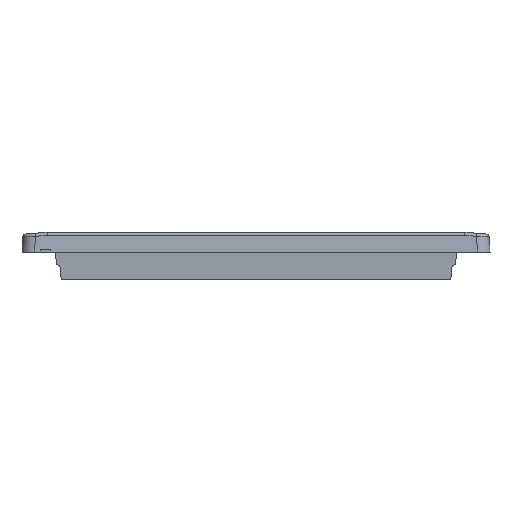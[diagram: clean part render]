
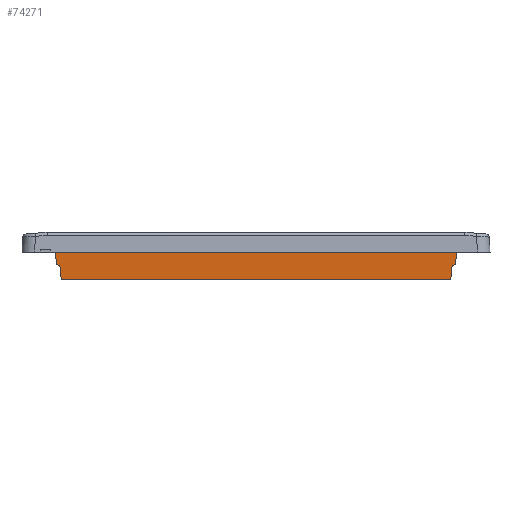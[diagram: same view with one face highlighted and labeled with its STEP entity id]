
A CAD part, front view. The second image highlights one B-rep face of the part: STEP entity #74271.
In plain terms, the highlighted free-form (B-spline) face has degree [1, 1] with [2, 2] control points.
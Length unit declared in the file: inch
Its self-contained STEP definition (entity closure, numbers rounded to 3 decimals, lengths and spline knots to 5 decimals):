
#72235=CARTESIAN_POINT('V1561',(4.0285,
   -14.89582,0.46686));
#72236=VERTEX_POINT('V1561',#72235);
#72242=CARTESIAN_POINT('V174',(4.04439,-14.91175,
   0.77));
#72243=VERTEX_POINT('V174',#72242);
#72244=CARTESIAN_POINT('E1599',(4.04439,
   -14.91175,0.77));
#72245=CARTESIAN_POINT('E1599',(4.0285,
   -14.89586,0.46686));
#72246=B_SPLINE_CURVE_WITH_KNOTS('E1599',1,(#72244,#72245),
   .POLYLINE_FORM.,.F.,.U.,(2,2),(0.35849,
   0.59068),.UNSPECIFIED.);
#72247=EDGE_CURVE('E1599',#72243,#72236,#72246,.T.);
#72345=CARTESIAN_POINT('V1568',(-7.05924,
   -14.89582,0.46686));
#72346=VERTEX_POINT('V1568',#72345);
#72353=CARTESIAN_POINT('V173',(-7.07513,
   -14.91175,0.77));
#72354=VERTEX_POINT('V173',#72353);
#72360=CARTESIAN_POINT('E1598',(-7.05924,
   -14.89586,0.46686));
#72361=CARTESIAN_POINT('E1598',(-7.07513,
   -14.91175,0.77));
#72362=B_SPLINE_CURVE_WITH_KNOTS('E1598',1,(#72360,#72361),
   .POLYLINE_FORM.,.F.,.U.,(2,2),(0.35849,
   0.59068),.UNSPECIFIED.);
#72363=EDGE_CURVE('E1598',#72346,#72354,#72362,.T.);
#72386=CARTESIAN_POINT('V1567',(-6.99933,
   -14.89288,0.41));
#72387=VERTEX_POINT('V1567',#72386);
#72388=CARTESIAN_POINT('E1597',(-6.99933,
   -14.89288,0.41));
#72389=CARTESIAN_POINT('E1597',(-7.01095,
   -14.89288,0.41));
#72390=CARTESIAN_POINT('E1597',(-7.04054,
   -14.89366,0.41877));
#72391=CARTESIAN_POINT('E1597',(-7.05872,
   -14.89476,0.44749));
#72392=CARTESIAN_POINT('E1597',(-7.05922,
   -14.89584,0.46686));
#72393=B_SPLINE_CURVE_WITH_KNOTS('E1597',3,(#72388,#72389,#72390,
   #72391,#72392),.UNSPECIFIED.,.F.,.U.,(4,1,4),(0.0,
   0.00085,0.00231),.UNSPECIFIED.);
#72394=EDGE_CURVE('E1597',#72387,#72346,#72393,.T.);
#72412=CARTESIAN_POINT('V1566',(-6.95613,
   -14.89288,0.41));
#72413=VERTEX_POINT('V1566',#72412);
#72414=CARTESIAN_POINT('E1596',(-6.99933,
   -14.89288,0.41));
#72415=CARTESIAN_POINT('E1596',(-6.95613,
   -14.89288,0.41));
#72416=B_SPLINE_CURVE_WITH_KNOTS('E1596',1,(#72414,#72415),
   .POLYLINE_FORM.,.F.,.U.,(2,2),(0.0,0.4314),
   .UNSPECIFIED.);
#72417=EDGE_CURVE('E1596',#72387,#72413,#72416,.T.);
#72433=CARTESIAN_POINT('V1565',(-6.92026,
   -14.87139,0.));
#72434=VERTEX_POINT('V1565',#72433);
#72435=CARTESIAN_POINT('E1595',(-6.95613,
   -14.89288,0.41));
#72436=CARTESIAN_POINT('E1595',(-6.92026,
   -14.87139,0.));
#72437=QUASI_UNIFORM_CURVE('E1595',1,(#72435,#72436),.POLYLINE_FORM.,
   .F.,.U.);
#72438=EDGE_CURVE('E1595',#72413,#72434,#72437,.T.);
#72455=CARTESIAN_POINT('V1564',(3.88951,
   -14.87139,0.));
#72456=VERTEX_POINT('V1564',#72455);
#72464=CARTESIAN_POINT('E1594',(3.88951,
   -14.87139,0.0));
#72465=CARTESIAN_POINT('E1594',(-6.92026,
   -14.87139,0.0));
#72466=QUASI_UNIFORM_CURVE('E1594',1,(#72464,#72465),.POLYLINE_FORM.,
   .F.,.U.);
#72467=EDGE_CURVE('E1594',#72456,#72434,#72466,.T.);
#74179=CARTESIAN_POINT('V1563',(3.92538,
   -14.89288,0.41));
#74180=VERTEX_POINT('V1563',#74179);
#74181=CARTESIAN_POINT('E1593',(3.92538,
   -14.89288,0.41));
#74182=CARTESIAN_POINT('E1593',(3.88951,
   -14.87139,0.));
#74183=QUASI_UNIFORM_CURVE('E1593',1,(#74181,#74182),.POLYLINE_FORM.,
   .F.,.U.);
#74184=EDGE_CURVE('E1593',#74180,#72456,#74183,.T.);
#74201=CARTESIAN_POINT('V1562',(3.96858,
   -14.89288,0.41));
#74202=VERTEX_POINT('V1562',#74201);
#74210=CARTESIAN_POINT('E1592',(3.96858,
   -14.89288,0.41));
#74211=CARTESIAN_POINT('E1592',(3.92538,
   -14.89288,0.41));
#74212=B_SPLINE_CURVE_WITH_KNOTS('E1592',1,(#74210,#74211),
   .POLYLINE_FORM.,.F.,.U.,(2,2),(0.0,0.4314),
   .UNSPECIFIED.);
#74213=EDGE_CURVE('E1592',#74202,#74180,#74212,.T.);
#74236=CARTESIAN_POINT('E1591',(4.02848,
   -14.89584,0.46686));
#74237=CARTESIAN_POINT('E1591',(4.02798,
   -14.89476,0.44749));
#74238=CARTESIAN_POINT('E1591',(4.00979,
   -14.89366,0.41877));
#74239=CARTESIAN_POINT('E1591',(3.98021,
   -14.89288,0.41));
#74240=CARTESIAN_POINT('E1591',(3.96858,
   -14.89288,0.41));
#74241=B_SPLINE_CURVE_WITH_KNOTS('E1591',3,(#74236,#74237,#74238,
   #74239,#74240),.UNSPECIFIED.,.F.,.U.,(4,1,4),(0.0,
   0.00146,0.00231),.UNSPECIFIED.);
#74242=EDGE_CURVE('E1591',#72236,#74202,#74241,.T.);
#74250=CARTESIAN_POINT('F44',(-7.08431,-14.91726,
   0.87511));
#74251=CARTESIAN_POINT('F44',(4.05357,-14.91726,
   0.87511));
#74252=CARTESIAN_POINT('F44',(-7.08431,-14.87119,
   -0.00393));
#74253=CARTESIAN_POINT('F44',(4.05357,-14.87119,
   -0.00393));
#74254=B_SPLINE_SURFACE_WITH_KNOTS('F44',1,1,((#74250,#74252),(
   #74251,#74253)),.PLANE_SURF.,.F.,.F.,.U.,(2,2),(2,2),(0.0,
   12.65309),(0.0,1.0),.UNSPECIFIED.);
#74255=ORIENTED_EDGE('E1591',*,*,#74242,.T.);
#74256=ORIENTED_EDGE('F826',*,*,#74213,.T.);
#74257=ORIENTED_EDGE('E1593',*,*,#74184,.T.);
#74258=ORIENTED_EDGE('F1620',*,*,#72467,.T.);
#74259=ORIENTED_EDGE('E1595',*,*,#72438,.F.);
#74260=ORIENTED_EDGE('E1596',*,*,#72417,.F.);
#74261=ORIENTED_EDGE('E1597',*,*,#72394,.T.);
#74262=ORIENTED_EDGE('F1613',*,*,#72363,.T.);
#74263=CARTESIAN_POINT('E201',(-7.07513,
   -14.91175,0.77));
#74264=CARTESIAN_POINT('E201',(4.04439,-14.91175,
   0.77));
#74265=QUASI_UNIFORM_CURVE('E201',1,(#74263,#74264),.POLYLINE_FORM.,
   .F.,.U.);
#74266=EDGE_CURVE('E201',#72354,#72243,#74265,.T.);
#74267=ORIENTED_EDGE('E201',*,*,#74266,.T.);
#74268=ORIENTED_EDGE('E1599',*,*,#72247,.T.);
#74269=EDGE_LOOP('F44',(#74255,#74256,#74257,#74258,#74259,#74260,
   #74261,#74262,#74267,#74268));
#74270=FACE_OUTER_BOUND('F44',#74269,.F.);
#74271=ADVANCED_FACE('F44',(#74270),#74254,.F.);
